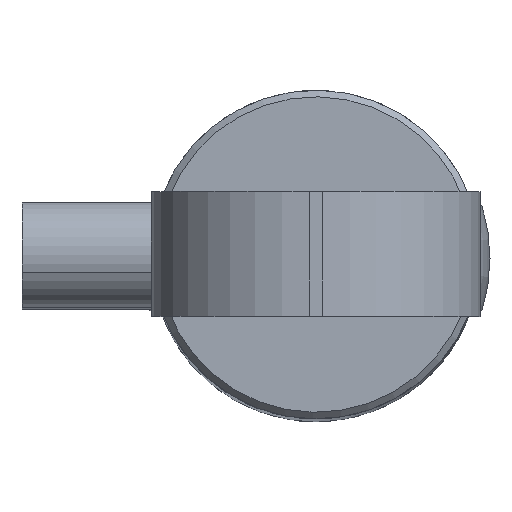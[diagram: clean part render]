
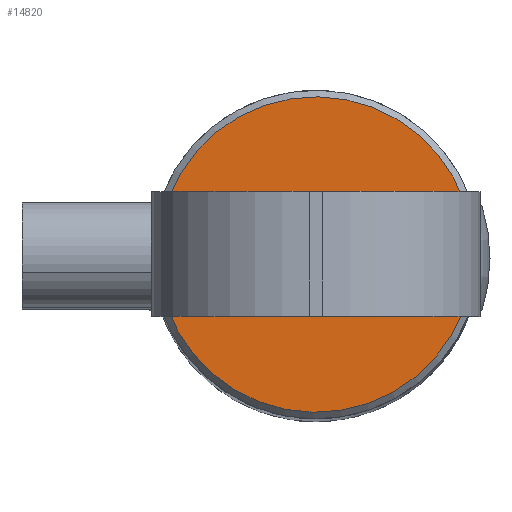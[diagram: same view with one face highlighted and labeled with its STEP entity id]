
A CAD part, top view. The second image highlights one B-rep face of the part: STEP entity #14820.
In plain terms, the highlighted planar face has unit normal (0, 0, 1) as drawn and (-1, 0, 0) by its records, which use the part's own axes.
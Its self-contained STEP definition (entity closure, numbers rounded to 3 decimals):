
#1477 = ORIENTED_EDGE ( 'NONE', *, *, #13577, .T. ) ;
#2454 = VERTEX_POINT ( 'NONE', #6684 ) ;
#3684 = FACE_OUTER_BOUND ( 'NONE', #4391, .T. ) ;
#4063 = DIRECTION ( 'NONE',  ( 0., 0., -1. ) ) ;
#4094 = CARTESIAN_POINT ( 'NONE',  ( 0., 0., 0. ) ) ;
#4174 = DIRECTION ( 'NONE',  ( 0., 0., -1. ) ) ;
#4391 = EDGE_LOOP ( 'NONE', ( #13047, #1477 ) ) ;
#4598 = DIRECTION ( 'NONE',  ( 1., 0., 0. ) ) ;
#4972 = DIRECTION ( 'NONE',  ( -1., 0., 0. ) ) ;
#5992 = CIRCLE ( 'NONE', #8437, 24. ) ;
#6449 = CIRCLE ( 'NONE', #13120, 24. ) ;
#6553 = CARTESIAN_POINT ( 'NONE',  ( 0., 0., -24. ) ) ;
#6655 = DIRECTION ( 'NONE',  ( -1., 0., 0. ) ) ;
#6684 = CARTESIAN_POINT ( 'NONE',  ( 0., 0., 24. ) ) ;
#8437 = AXIS2_PLACEMENT_3D ( 'NONE', #4094, #6655, #4174 ) ;
#8947 = EDGE_CURVE ( 'NONE', #13920, #2454, #6449, .T. ) ;
#12349 = PLANE ( 'NONE',  #16148 ) ;
#13047 = ORIENTED_EDGE ( 'NONE', *, *, #8947, .T. ) ;
#13120 = AXIS2_PLACEMENT_3D ( 'NONE', #15481, #4972, #4063 ) ;
#13518 = CARTESIAN_POINT ( 'NONE',  ( 0., 0., 0. ) ) ;
#13577 = EDGE_CURVE ( 'NONE', #2454, #13920, #5992, .T. ) ;
#13920 = VERTEX_POINT ( 'NONE', #6553 ) ;
#14762 = DIRECTION ( 'NONE',  ( 0., 0., -1. ) ) ;
#14820 = ADVANCED_FACE ( 'NONE', ( #3684 ), #12349, .F. ) ;
#15481 = CARTESIAN_POINT ( 'NONE',  ( 0., 0., 0. ) ) ;
#16148 = AXIS2_PLACEMENT_3D ( 'NONE', #13518, #4598, #14762 ) ;
